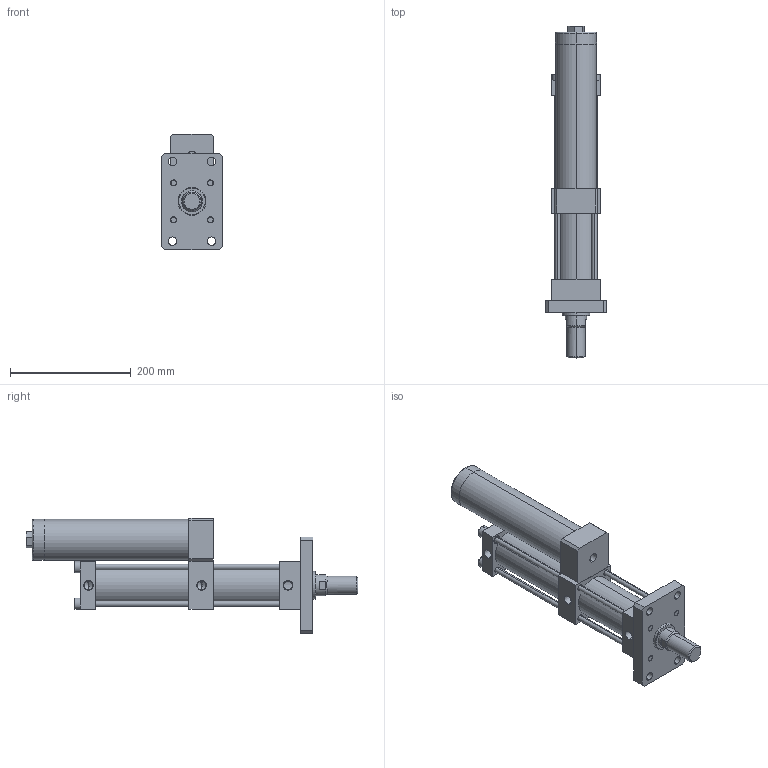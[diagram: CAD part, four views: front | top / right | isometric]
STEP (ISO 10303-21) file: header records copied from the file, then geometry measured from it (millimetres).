
FILE_DESCRIPTION (( 'STEP AP203' ), '1' );
FILE_NAME ('MPT-63-50-10-1T.STEP', '2016-03-17T09:39:07', ( 'WIN' ), ( '' ), 'SwSTEP 2.0', 'SolidWorks 2014', '' );
FILE_SCHEMA (( 'CONFIG_CONTROL_DESIGN' ));
Length unit declared in the file: millimetre
Products named in the file (1): MPT-63-50-10-1T
Bounding box: 100 x 550 x 191 mm (x, y, z)
Volume: 2052371.4 mm3; surface area: 407580.4 mm2
Topology: 14 solids, 14 shells, 251 faces, 573 edges, 360 vertices
Faces by surface type: plane 131, cylinder 84, cone 24, torus 12
Entity records: 7235 total; most frequent: DIRECTION 1304, CARTESIAN_POINT 1278, ORIENTED_EDGE 1134, EDGE_CURVE 567, AXIS2_PLACEMENT_3D 496, VERTEX_POINT 360, LINE 312, VECTOR 312
